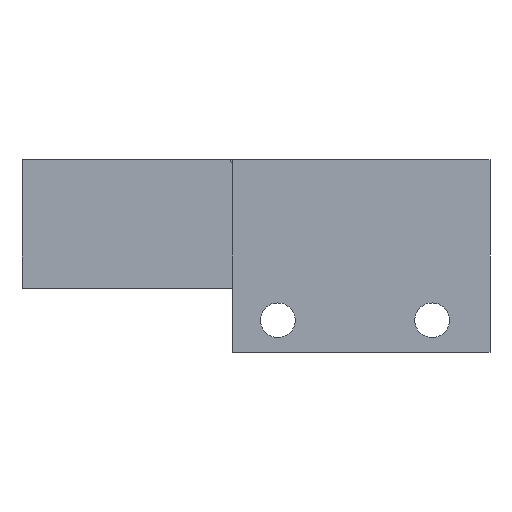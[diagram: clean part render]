
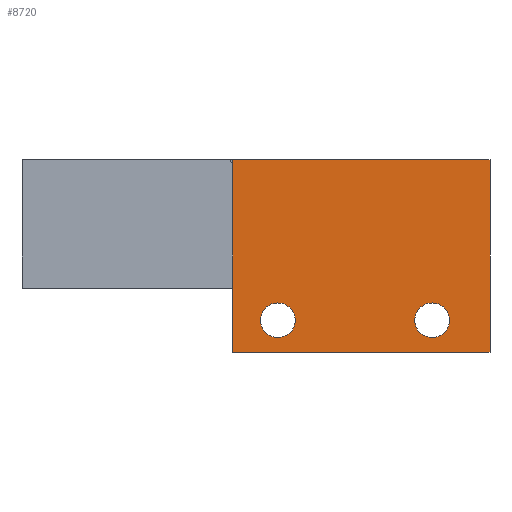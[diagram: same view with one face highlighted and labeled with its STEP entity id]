
A CAD part, front view. The second image highlights one B-rep face of the part: STEP entity #8720.
In plain terms, the highlighted planar face has unit normal (0, -1, 0).
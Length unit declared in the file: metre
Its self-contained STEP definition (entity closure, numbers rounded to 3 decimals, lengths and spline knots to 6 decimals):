
#229 = DIRECTION ( 'NONE',  ( -1., 0., 0. ) ) ;
#334 = DIRECTION ( 'NONE',  ( 0., 0., -1. ) ) ;
#549 = VERTEX_POINT ( 'NONE', #8809 ) ;
#596 = EDGE_CURVE ( 'NONE', #8179, #3493, #9733, .T. ) ;
#733 = DIRECTION ( 'NONE',  ( 0., 1., 0. ) ) ;
#781 = CARTESIAN_POINT ( 'NONE',  ( -0.0095, 0., 0.005 ) ) ;
#838 = CIRCLE ( 'NONE', #8501, 0.00135 ) ;
#972 = EDGE_CURVE ( 'NONE', #2399, #3836, #7123, .T. ) ;
#1239 = DIRECTION ( 'NONE',  ( 0., -1., 0. ) ) ;
#1350 = ORIENTED_EDGE ( 'NONE', *, *, #3050, .T. ) ;
#1654 = CARTESIAN_POINT ( 'NONE',  ( -0.0095, 0., -0.0025 ) ) ;
#1837 = AXIS2_PLACEMENT_3D ( 'NONE', #7964, #4911, #334 ) ;
#1862 = AXIS2_PLACEMENT_3D ( 'NONE', #5322, #733, #6093 ) ;
#2229 = CARTESIAN_POINT ( 'NONE',  ( 0.0105, 0., 0.005 ) ) ;
#2399 = VERTEX_POINT ( 'NONE', #781 ) ;
#2607 = CARTESIAN_POINT ( 'NONE',  ( -0.006, 0., -0.00615 ) ) ;
#2661 = DIRECTION ( 'NONE',  ( 0., -1., 0. ) ) ;
#2690 = ORIENTED_EDGE ( 'NONE', *, *, #7084, .T. ) ;
#2892 = CARTESIAN_POINT ( 'NONE',  ( -0.0095, 0., -0.01 ) ) ;
#2931 = CARTESIAN_POINT ( 'NONE',  ( -0.006, 0., -0.00885 ) ) ;
#2973 = LINE ( 'NONE', #4921, #8874 ) ;
#3050 = EDGE_CURVE ( 'NONE', #9067, #5406, #9158, .T. ) ;
#3110 = LINE ( 'NONE', #3942, #7219 ) ;
#3493 = VERTEX_POINT ( 'NONE', #8696 ) ;
#3575 = ORIENTED_EDGE ( 'NONE', *, *, #6477, .T. ) ;
#3691 = EDGE_LOOP ( 'NONE', ( #7568, #6467, #3575, #2690 ) ) ;
#3722 = CIRCLE ( 'NONE', #4395, 0.00135 ) ;
#3730 = DIRECTION ( 'NONE',  ( 0., 1., 0. ) ) ;
#3836 = VERTEX_POINT ( 'NONE', #2892 ) ;
#3942 = CARTESIAN_POINT ( 'NONE',  ( 0.0005, 0., -0.01 ) ) ;
#4395 = AXIS2_PLACEMENT_3D ( 'NONE', #7269, #2661, #8037 ) ;
#4911 = DIRECTION ( 'NONE',  ( 0., -1., 0. ) ) ;
#4921 = CARTESIAN_POINT ( 'NONE',  ( 0.0105, 0., -0.0025 ) ) ;
#5068 = VECTOR ( 'NONE', #7036, 1. ) ;
#5129 = VERTEX_POINT ( 'NONE', #2229 ) ;
#5191 = ORIENTED_EDGE ( 'NONE', *, *, #9856, .F. ) ;
#5235 = FACE_BOUND ( 'NONE', #8020, .T. ) ;
#5322 = CARTESIAN_POINT ( 'NONE',  ( -0.006, 0., -0.0075 ) ) ;
#5406 = VERTEX_POINT ( 'NONE', #2607 ) ;
#5586 = CARTESIAN_POINT ( 'NONE',  ( 0.0005, 0., 0.005 ) ) ;
#5830 = CARTESIAN_POINT ( 'NONE',  ( 0.006, 0., -0.0075 ) ) ;
#6093 = DIRECTION ( 'NONE',  ( 0., 0., 1. ) ) ;
#6217 = EDGE_LOOP ( 'NONE', ( #7268, #1350 ) ) ;
#6467 = ORIENTED_EDGE ( 'NONE', *, *, #9616, .T. ) ;
#6477 = EDGE_CURVE ( 'NONE', #549, #5129, #2973, .T. ) ;
#6601 = DIRECTION ( 'NONE',  ( 0., 0., 1. ) ) ;
#6792 = EDGE_CURVE ( 'NONE', #5406, #9067, #838, .T. ) ;
#7036 = DIRECTION ( 'NONE',  ( 0., 0., -1. ) ) ;
#7083 = VECTOR ( 'NONE', #229, 1. ) ;
#7084 = EDGE_CURVE ( 'NONE', #5129, #2399, #8866, .T. ) ;
#7123 = LINE ( 'NONE', #1654, #5068 ) ;
#7219 = VECTOR ( 'NONE', #8540, 1. ) ;
#7268 = ORIENTED_EDGE ( 'NONE', *, *, #6792, .T. ) ;
#7269 = CARTESIAN_POINT ( 'NONE',  ( 0.006, 0., -0.0075 ) ) ;
#7568 = ORIENTED_EDGE ( 'NONE', *, *, #972, .T. ) ;
#7581 = FACE_BOUND ( 'NONE', #6217, .T. ) ;
#7964 = CARTESIAN_POINT ( 'NONE',  ( -0.0095, 0., 0.005 ) ) ;
#8020 = EDGE_LOOP ( 'NONE', ( #5191, #9058 ) ) ;
#8037 = DIRECTION ( 'NONE',  ( 0., 0., 1. ) ) ;
#8076 = CARTESIAN_POINT ( 'NONE',  ( 0.006, 0., -0.00885 ) ) ;
#8179 = VERTEX_POINT ( 'NONE', #8076 ) ;
#8324 = CARTESIAN_POINT ( 'NONE',  ( -0.006, 0., -0.0075 ) ) ;
#8501 = AXIS2_PLACEMENT_3D ( 'NONE', #8324, #3730, #9083 ) ;
#8540 = DIRECTION ( 'NONE',  ( 1., 0., 0. ) ) ;
#8670 = FACE_OUTER_BOUND ( 'NONE', #3691, .T. ) ;
#8696 = CARTESIAN_POINT ( 'NONE',  ( 0.006, 0., -0.00615 ) ) ;
#8720 = ADVANCED_FACE ( 'NONE', ( #7581, #5235, #8670 ), #9492, .T. ) ;
#8809 = CARTESIAN_POINT ( 'NONE',  ( 0.0105, 0., -0.01 ) ) ;
#8866 = LINE ( 'NONE', #5586, #7083 ) ;
#8874 = VECTOR ( 'NONE', #9504, 1. ) ;
#9058 = ORIENTED_EDGE ( 'NONE', *, *, #596, .F. ) ;
#9067 = VERTEX_POINT ( 'NONE', #2931 ) ;
#9083 = DIRECTION ( 'NONE',  ( 0., 0., 1. ) ) ;
#9158 = CIRCLE ( 'NONE', #1862, 0.00135 ) ;
#9492 = PLANE ( 'NONE',  #1837 ) ;
#9504 = DIRECTION ( 'NONE',  ( 0., 0., 1. ) ) ;
#9616 = EDGE_CURVE ( 'NONE', #3836, #549, #3110, .T. ) ;
#9733 = CIRCLE ( 'NONE', #9890, 0.00135 ) ;
#9856 = EDGE_CURVE ( 'NONE', #3493, #8179, #3722, .T. ) ;
#9890 = AXIS2_PLACEMENT_3D ( 'NONE', #5830, #1239, #6601 ) ;
